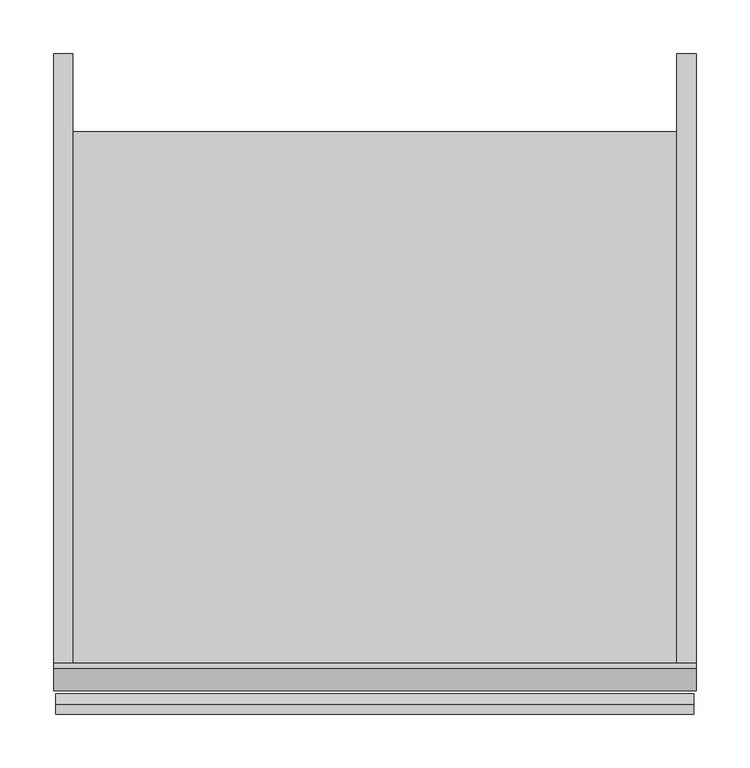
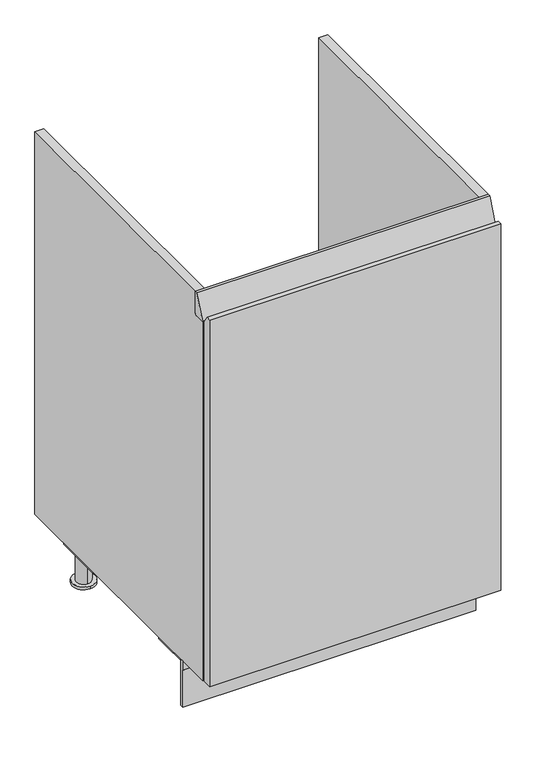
"""IFC4 building model written with IfcOpenShell, lengths in millimetres: furniture geometry, Furniture_Other-Furniture_Molteni&C_Prime_Washdishes-1-leaf : Washdishes 1 leaf - 600 x 828."""

from ifc_helpers import new_model, si_unit, point, frame, frame_2d, origin, place, context, project, spatial, polyline, circle_curve, trimmed, segment, composite_curve, outline, extrude, source, transform, mapped, element, save
from ifc_brep_helpers import plane_surface, cylinder_surface, revolved_surface, advanced_brep


def furniture_563479a7(model_context):
    return source(origin(), model_context, "Body", "SolidModel", [
        extrude(outline(composite_curve([segment(polyline([(-297.5, 878.8414028), (-276.6334135, 928.0), (-271.6986287, 928.0), (-271.6986287, 881.7508798)]), True, "CONTINUOUS"), segment(trimmed(circle_curve(frame_2d((-276.1081057, 881.7508798)), 4.409477), [point((-271.6986287, 881.7508798))], [point((-276.1081057, 877.3414028))], False, "CARTESIAN"), True, "CONTINUOUS"), segment(polyline([(-276.1081057, 877.3414028), (-297.5, 877.3414028), (-297.5, 878.8414028)]), True, "CONTINUOUS")], self_intersect=False)), frame((-300.0, 0.0, 0.0), z_axis=(1.0, 0.0, 0.0), x_axis=(0.0, 1.0, 0.0)), (0.0, 0.0, 1.0), 600.0),
        extrude(outline(polyline([(-300.5, 878.5), (-300.5, 100.0), (-319.5, 100.0), (-319.5, 894.0), (-310.3877276, 894.0), (-300.5, 878.5)])), frame((-298.0, 0.0, 0.0), z_axis=(1.0, 0.0, 0.0), x_axis=(0.0, 1.0, 0.0)), (0.0, 0.0, 1.0), 596.0),
        extrude(outline(polyline([(-227.5, 80.0), (-226.5, 80.0), (-226.5, 100.0), (-220.5, 100.0), (-220.5, 80.0), (-219.5, 80.0), (-219.5, 0.0), (-227.5, 0.0), (-227.5, 80.0)])), frame((-300.0, 0.0, 0.0), z_axis=(1.0, 0.0, 0.0), x_axis=(0.0, 1.0, 0.0)), (0.0, 0.0, 1.0), 600.0),
        advanced_brep(
        [(282.0, 224.4195947, 122.0), (-282.0, 224.4195947, 122.0), (-282.0, -297.5, 122.0), (282.0, -297.5, 122.0), (-282.0, -297.5, 507.7867009), (-300.0, -297.5, 507.7867009), (-300.0, -297.5, 100.0), (300.0, -297.5, 100.0), (300.0, -297.5, 499.6066994), (282.0, -297.5, 499.6066994), (-282.0, 224.4195947, 100.0), (282.0, 224.4195947, 100.0), (282.0, 297.5, 100.0), (300.0, 297.5, 100.0), (-300.0, 297.5, 100.0), (-282.0, 297.5, 100.0), (282.0, -271.6986287, 928.0), (282.0, 297.5, 928.0), (282.0, -297.5, 877.3414028), (282.0, -276.1081057, 877.3414028), (282.0, -271.6986287, 881.7508798), (300.0, -271.6986287, 928.0), (300.0, -271.6986287, 881.7508798), (300.0, -276.1081057, 877.3414028), (300.0, -297.5, 877.3414028), (300.0, 297.5, 928.0), (-282.0, -271.6986287, 928.0), (-282.0, -271.6986287, 881.7508798), (-282.0, -276.1081057, 877.3414028), (-282.0, -297.5, 877.3414028), (-282.0, 297.5, 928.0), (-300.0, -271.6986287, 928.0), (-300.0, 297.5, 928.0), (-300.0, -297.5, 877.3414028), (-300.0, -276.1081057, 877.3414028), (-300.0, -271.6986287, 881.7508798)],
        [
            (0, 1),
            (1, 2),
            (2, 3),
            (3, 0),
            (2, 4),
            (4, 5),
            (5, 6),
            (6, 7),
            (7, 8),
            (8, 9),
            (9, 3),
            (10, 11),
            (11, 12),
            (12, 13),
            (13, 7),
            (6, 14),
            (14, 15),
            (15, 10),
            (0, 11),
            (10, 1),
            (16, 17),
            (17, 12),
            (9, 18),
            (18, 19),
            (19, 20, circle_curve(frame((282.0, -276.1081057, 881.7508798), z_axis=(1.0, 0.0, 0.0), x_axis=(0.0, 1.0, 0.0)), 4.409477)),
            (20, 16),
            (21, 22),
            (22, 23, circle_curve(frame((300.0, -276.1081057, 881.7508798), z_axis=(-1.0, 0.0, 0.0), x_axis=(0.0, 1.0, 0.0)), 4.409477)),
            (23, 24),
            (24, 8),
            (13, 25),
            (25, 21),
            (24, 18),
            (17, 25),
            (16, 21),
            (26, 27),
            (27, 28, circle_curve(frame((-282.0, -276.1081057, 881.7508798), z_axis=(-1.0, 0.0, 0.0), x_axis=(0.0, 1.0, 0.0)), 4.409477)),
            (28, 29),
            (29, 4),
            (15, 30),
            (30, 26),
            (31, 32),
            (32, 14),
            (5, 33),
            (33, 34),
            (34, 35, circle_curve(frame((-300.0, -276.1081057, 881.7508798), z_axis=(1.0, 0.0, 0.0), x_axis=(0.0, 1.0, 0.0)), 4.409477)),
            (35, 31),
            (28, 34),
            (33, 29),
            (32, 30),
            (31, 26),
            (35, 27),
            (23, 19),
            (22, 20),
        ],
        [
            plane_surface(frame((282.0, 224.4195947, 122.0), z_axis=(0.0, 0.0, 1.0), x_axis=(-1.0, 0.0, 0.0))),
            plane_surface(frame((282.0, -297.5, 122.0), z_axis=(0.0, -1.0, 0.0), x_axis=(-1.0, 0.0, 0.0))),
            plane_surface(frame((282.0, -297.5, 100.0), z_axis=(0.0, 0.0, -1.0), x_axis=(-1.0, 0.0, 0.0))),
            plane_surface(frame((282.0, 224.4195947, 100.0), z_axis=(0.0, 1.0, 0.0), x_axis=(-1.0, 0.0, 0.0))),
            plane_surface(frame((282.0, 297.5, 928.0), z_axis=(-1.0, 0.0, 0.0), x_axis=(0.0, 1.0, 0.0))),
            plane_surface(frame((300.0, 297.5, 928.0), z_axis=(1.0, 0.0, 0.0), x_axis=(0.0, -1.0, 0.0))),
            plane_surface(frame((282.0, -297.5, 499.6066994), z_axis=(0.0, -1.0, 0.0), x_axis=(1.0, 0.0, 0.0))),
            plane_surface(frame((282.0, 297.5, 928.0), z_axis=(0.0, 1.0, 0.0), x_axis=(1.0, 0.0, 0.0))),
            plane_surface(frame((282.0, -271.6986287, 928.0), z_axis=(0.0, 0.0, 1.0), x_axis=(1.0, 0.0, 0.0))),
            plane_surface(frame((-282.0, -271.6986287, 928.0), z_axis=(1.0, 0.0, 0.0), x_axis=(0.0, 0.0, -1.0))),
            plane_surface(frame((-300.0, -271.6986287, 928.0), z_axis=(-1.0, 0.0, 0.0), x_axis=(0.0, 0.0, 1.0))),
            plane_surface(frame((-282.0, -276.1081057, 877.3414028), z_axis=(0.0, 0.0, 1.0), x_axis=(-1.0, 0.0, 0.0))),
            plane_surface(frame((-282.0, -297.5, 877.3414028), z_axis=(0.0, -1.0, 0.0), x_axis=(-1.0, 0.0, 0.0))),
            plane_surface(frame((-282.0, 297.5, 100.0), z_axis=(0.0, 1.0, 0.0), x_axis=(-1.0, 0.0, 0.0))),
            plane_surface(frame((-282.0, 297.5, 928.0), z_axis=(0.0, 0.0, 1.0), x_axis=(-1.0, 0.0, 0.0))),
            plane_surface(frame((-282.0, -271.6986287, 928.0), z_axis=(0.0, -1.0, 0.0), x_axis=(-1.0, 0.0, 0.0))),
            revolved_surface(polyline([(-300.0, -271.69862870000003, 881.7508798), (-282.0, -271.69862870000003, 881.7508798)]), (-300.0, -276.1081057, 881.7508798), (-1.0, 0.0, 0.0)),
            plane_surface(frame((282.0, -297.5, 877.3414028), z_axis=(0.0, 0.0, 1.0), x_axis=(1.0, 0.0, 0.0))),
            revolved_surface(polyline([(300.0, -271.69862870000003, 881.7508798), (282.0, -271.69862870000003, 881.7508798)]), (300.0, -276.1081057, 881.7508798), (1.0, 0.0, 0.0)),
            plane_surface(frame((282.0, -271.6986287, 881.7508798), z_axis=(0.0, -1.0, 0.0), x_axis=(1.0, 0.0, 0.0))),
        ],
        [
            (0, [[1, 2, 3, 4]]),
            (1, [[-3, 5, 6, 7, 8, 9, 10, 11]]),
            (2, [[12, 13, 14, 15, -8, 16, 17, 18]]),
            (3, [[-1, 19, -12, 20]]),
            (4, [[21, 22, -13, -19, -4, -11, 23, 24, 25, 26]]),
            (5, [[27, 28, 29, 30, -9, -15, 31, 32]]),
            (6, [[-23, -10, -30, 33]]),
            (7, [[-22, 34, -31, -14]]),
            (8, [[-21, 35, -32, -34]]),
            (9, [[36, 37, 38, 39, -5, -2, -20, -18, 40, 41]]),
            (10, [[42, 43, -16, -7, 44, 45, 46, 47]]),
            (11, [[-38, 48, -45, 49]]),
            (12, [[-39, -49, -44, -6]]),
            (13, [[-40, -17, -43, 50]]),
            (14, [[-41, -50, -42, 51]]),
            (15, [[-36, -51, -47, 52]]),
            (16, [[-37, -52, -46, -48]]),
            (17, [[-24, -33, -29, 53]]),
            (18, [[-25, -53, -28, 54]]),
            (19, [[-26, -54, -27, -35]]),
        ],
    ),
        advanced_brep(
        [(259.0, -172.0406948, 6.1757403), (259.0, -219.0487988, 6.1757403), (259.0, -180.450213, 6.1757403), (259.0, -210.450213, 6.1757403), (259.0, -172.0406948, 0.0), (259.0, -219.0487988, 0.0), (259.0, -210.450213, 76.0), (259.0, -180.450213, 76.0), (285.0, -220.2543184, 100.0), (285.0, -116.0117937, 100.0), (255.0, -116.0117937, 100.0), (180.4, -190.6117937, 100.0), (180.4, -220.2543184, 100.0), (285.0, -220.2543184, 76.0), (180.4, -220.2543184, 76.0), (180.4, -190.6117937, 76.0), (255.0, -116.0117937, 76.0), (285.0, -116.0117937, 76.0)],
        [
            (0, 1, circle_curve(frame((259.0, -195.5447468, 6.1757403), z_axis=(0.0, 0.0, 1.0), x_axis=(1.0, 0.0, 0.0)), 23.504052)),
            (1, 0, circle_curve(frame((259.0, -195.5447468, 6.1757403), z_axis=(0.0, 0.0, 1.0), x_axis=(1.0, 0.0, 0.0)), 23.504052)),
            (2, 3, circle_curve(frame((259.0, -195.450213, 6.1757403), z_axis=(0.0, 0.0, -1.0), x_axis=(1.0, 0.0, 0.0)), 15.0)),
            (3, 2, circle_curve(frame((259.0, -195.450213, 6.1757403), z_axis=(0.0, 0.0, -1.0), x_axis=(1.0, 0.0, 0.0)), 15.0)),
            (4, 5, circle_curve(frame((259.0, -195.5447468, 0.0), z_axis=(0.0, 0.0, -1.0), x_axis=(1.0, 0.0, 0.0)), 23.504052)),
            (5, 4, circle_curve(frame((259.0, -195.5447468, 0.0), z_axis=(0.0, 0.0, -1.0), x_axis=(1.0, 0.0, 0.0)), 23.504052)),
            (0, 4),
            (5, 1),
            (6, 3),
            (2, 7),
            (7, 6, circle_curve(frame((259.0, -195.450213, 76.0), z_axis=(0.0, 0.0, -1.0), x_axis=(1.0, 0.0, 0.0)), 15.0)),
            (6, 7, circle_curve(frame((259.0, -195.450213, 76.0), z_axis=(0.0, 0.0, -1.0), x_axis=(1.0, 0.0, 0.0)), 15.0)),
            (8, 9),
            (9, 10),
            (10, 11),
            (11, 12),
            (12, 8),
            (13, 14),
            (14, 15),
            (15, 16),
            (16, 17),
            (17, 13),
            (8, 13),
            (17, 9),
            (16, 10),
            (15, 11),
            (14, 12),
        ],
        [
            plane_surface(frame((282.504052, -195.5447468, 6.1757403), z_axis=(0.0, 0.0, 1.0), x_axis=(0.0, 1.0, 0.0))),
            plane_surface(frame((282.504052, -195.5447468, 0.0), z_axis=(0.0, 0.0, -1.0), x_axis=(0.0, -1.0, 0.0))),
            cylinder_surface(frame((259.0, -195.5447468, 0.0), z_axis=(0.0, 0.0, 1.0), x_axis=(1.0, 0.0, 0.0)), 23.504052),
            cylinder_surface(frame((259.0, -195.450213, 0.0), z_axis=(0.0, 0.0, 1.0), x_axis=(1.0, 0.0, 0.0)), 15.0),
            plane_surface(frame((-285.0, 116.2642334, 100.0), z_axis=(0.0, 0.0, 1.0), x_axis=(1.0, 0.0, 0.0))),
            plane_surface(frame((-285.0, 116.2642334, 76.0), z_axis=(0.0, 0.0, -1.0), x_axis=(-1.0, 0.0, 0.0))),
            plane_surface(frame((285.0, -220.2543184, 100.0), z_axis=(1.0, 0.0, 0.0), x_axis=(0.0, 0.0, -1.0))),
            plane_surface(frame((285.0, -116.0117937, 100.0), z_axis=(0.0, 1.0, 0.0), x_axis=(0.0, 0.0, -1.0))),
            plane_surface(frame((255.0, -116.0117937, 100.0), z_axis=(-0.7071067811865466, 0.7071067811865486, 0.0), x_axis=(0.0, 0.0, -1.0))),
            plane_surface(frame((180.4, -190.6117937, 100.0), z_axis=(-1.0, 0.0, 0.0), x_axis=(0.0, 0.0, -1.0))),
            plane_surface(frame((180.4, -220.2543184, 100.0), z_axis=(0.0, -1.0, 0.0), x_axis=(0.0, 0.0, -1.0))),
        ],
        [
            (0, [[1, 2], [3, 4]]),
            (1, [[5, 6]]),
            (2, [[-1, 7, -6, 8]]),
            (2, [[-2, -8, -5, -7]]),
            (3, [[9, -3, 10, 11]]),
            (3, [[-9, 12, -10, -4]]),
            (4, [[13, 14, 15, 16, 17]]),
            (5, [[18, 19, 20, 21, 22], [-11, -12]]),
            (6, [[-13, 23, -22, 24]]),
            (7, [[-14, -24, -21, 25]]),
            (8, [[-15, -25, -20, 26]]),
            (9, [[-16, -26, -19, 27]]),
            (10, [[-17, -27, -18, -23]]),
        ],
    ),
        advanced_brep(
        [(259.0, 219.004052, 6.1757403), (259.0, 171.995948, 6.1757403), (259.0, 210.450213, 6.1757403), (259.0, 180.450213, 6.1757403), (259.0, 219.004052, 0.0), (259.0, 171.995948, 0.0), (259.0, 180.450213, 76.0), (259.0, 210.450213, 76.0), (285.0, 116.2642334, 100.0), (285.0, 220.9077377, 100.0), (180.4, 220.9077377, 100.0), (180.4, 190.8642334, 100.0), (255.0, 116.2642334, 100.0), (285.0, 116.2642334, 76.0), (255.0, 116.2642334, 76.0), (180.4, 190.8642334, 76.0), (180.4, 220.9077377, 76.0), (285.0, 220.9077377, 76.0)],
        [
            (0, 1, circle_curve(frame((259.0, 195.5, 6.1757403), z_axis=(0.0, 0.0, 1.0), x_axis=(1.0, 0.0, 0.0)), 23.504052)),
            (1, 0, circle_curve(frame((259.0, 195.5, 6.1757403), z_axis=(0.0, 0.0, 1.0), x_axis=(1.0, 0.0, 0.0)), 23.504052)),
            (2, 3, circle_curve(frame((259.0, 195.450213, 6.1757403), z_axis=(0.0, 0.0, -1.0), x_axis=(1.0, 0.0, 0.0)), 15.0)),
            (3, 2, circle_curve(frame((259.0, 195.450213, 6.1757403), z_axis=(0.0, 0.0, -1.0), x_axis=(1.0, 0.0, 0.0)), 15.0)),
            (4, 5, circle_curve(frame((259.0, 195.5, 0.0), z_axis=(0.0, 0.0, -1.0), x_axis=(1.0, 0.0, 0.0)), 23.504052)),
            (5, 4, circle_curve(frame((259.0, 195.5, 0.0), z_axis=(0.0, 0.0, -1.0), x_axis=(1.0, 0.0, 0.0)), 23.504052)),
            (0, 4),
            (5, 1),
            (6, 3),
            (2, 7),
            (7, 6, circle_curve(frame((259.0, 195.450213, 76.0), z_axis=(0.0, 0.0, -1.0), x_axis=(1.0, 0.0, 0.0)), 15.0)),
            (6, 7, circle_curve(frame((259.0, 195.450213, 76.0), z_axis=(0.0, 0.0, -1.0), x_axis=(1.0, 0.0, 0.0)), 15.0)),
            (8, 9),
            (9, 10),
            (10, 11),
            (11, 12),
            (12, 8),
            (13, 14),
            (14, 15),
            (15, 16),
            (16, 17),
            (17, 13),
            (8, 13),
            (17, 9),
            (16, 10),
            (15, 11),
            (14, 12),
        ],
        [
            plane_surface(frame((282.504052, -195.5447468, 6.1757403), z_axis=(0.0, 0.0, 1.0), x_axis=(0.0, 1.0, 0.0))),
            plane_surface(frame((282.504052, -195.5447468, 0.0), z_axis=(0.0, 0.0, -1.0), x_axis=(0.0, -1.0, 0.0))),
            cylinder_surface(frame((259.0, 195.5, 0.0), z_axis=(0.0, 0.0, 1.0), x_axis=(1.0, 0.0, 0.0)), 23.504052),
            cylinder_surface(frame((259.0, 195.450213, 0.0), z_axis=(0.0, 0.0, 1.0), x_axis=(1.0, 0.0, 0.0)), 15.0),
            plane_surface(frame((-285.0, 116.2642334, 100.0), z_axis=(0.0, 0.0, 1.0), x_axis=(1.0, 0.0, 0.0))),
            plane_surface(frame((-285.0, 116.2642334, 76.0), z_axis=(0.0, 0.0, -1.0), x_axis=(-1.0, 0.0, 0.0))),
            plane_surface(frame((285.0, 116.2642334, 100.0), z_axis=(1.0, 0.0, 0.0), x_axis=(0.0, 0.0, -1.0))),
            plane_surface(frame((285.0, 220.9077377, 100.0), z_axis=(0.0, 1.0, 0.0), x_axis=(0.0, 0.0, -1.0))),
            plane_surface(frame((180.4, 220.9077377, 100.0), z_axis=(-1.0, 0.0, 0.0), x_axis=(0.0, 0.0, -1.0))),
            plane_surface(frame((180.4, 190.8642334, 100.0), z_axis=(-0.7071067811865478, -0.7071067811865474, 0.0), x_axis=(0.0, 0.0, -1.0))),
            plane_surface(frame((255.0, 116.2642334, 100.0), z_axis=(0.0, -1.0, 0.0), x_axis=(0.0, 0.0, -1.0))),
        ],
        [
            (0, [[1, 2], [3, 4]]),
            (1, [[5, 6]]),
            (2, [[-1, 7, -6, 8]]),
            (2, [[-2, -8, -5, -7]]),
            (3, [[9, -3, 10, 11]]),
            (3, [[-9, 12, -10, -4]]),
            (4, [[13, 14, 15, 16, 17]]),
            (5, [[18, 19, 20, 21, 22], [-11, -12]]),
            (6, [[-13, 23, -22, 24]]),
            (7, [[-14, -24, -21, 25]]),
            (8, [[-15, -25, -20, 26]]),
            (9, [[-16, -26, -19, 27]]),
            (10, [[-17, -27, -18, -23]]),
        ],
    ),
        advanced_brep(
        [(-259.0, 219.004052, 6.1757403), (-259.0, 171.995948, 6.1757403), (-259.0, 210.450213, 6.1757403), (-259.0, 180.450213, 6.1757403), (-259.0, 219.004052, 0.0), (-259.0, 171.995948, 0.0), (-259.0, 180.450213, 76.0), (-259.0, 210.450213, 76.0), (-285.0, 116.2642334, 100.0), (-255.0, 116.2642334, 100.0), (-180.4, 190.8642334, 100.0), (-180.4, 220.9077377, 100.0), (-285.0, 220.9077377, 100.0), (-285.0, 116.2642334, 76.0), (-285.0, 220.9077377, 76.0), (-180.4, 220.9077377, 76.0), (-180.4, 190.8642334, 76.0), (-255.0, 116.2642334, 76.0)],
        [
            (0, 1, circle_curve(frame((-259.0, 195.5, 6.1757403), z_axis=(0.0, 0.0, 1.0), x_axis=(1.0, 0.0, 0.0)), 23.504052)),
            (1, 0, circle_curve(frame((-259.0, 195.5, 6.1757403), z_axis=(0.0, 0.0, 1.0), x_axis=(1.0, 0.0, 0.0)), 23.504052)),
            (2, 3, circle_curve(frame((-259.0, 195.450213, 6.1757403), z_axis=(0.0, 0.0, -1.0), x_axis=(1.0, 0.0, 0.0)), 15.0)),
            (3, 2, circle_curve(frame((-259.0, 195.450213, 6.1757403), z_axis=(0.0, 0.0, -1.0), x_axis=(1.0, 0.0, 0.0)), 15.0)),
            (4, 5, circle_curve(frame((-259.0, 195.5, 0.0), z_axis=(0.0, 0.0, -1.0), x_axis=(1.0, 0.0, 0.0)), 23.504052)),
            (5, 4, circle_curve(frame((-259.0, 195.5, 0.0), z_axis=(0.0, 0.0, -1.0), x_axis=(1.0, 0.0, 0.0)), 23.504052)),
            (0, 4),
            (5, 1),
            (6, 3),
            (2, 7),
            (7, 6, circle_curve(frame((-259.0, 195.450213, 76.0), z_axis=(0.0, 0.0, -1.0), x_axis=(1.0, 0.0, 0.0)), 15.0)),
            (6, 7, circle_curve(frame((-259.0, 195.450213, 76.0), z_axis=(0.0, 0.0, -1.0), x_axis=(1.0, 0.0, 0.0)), 15.0)),
            (8, 9),
            (9, 10),
            (10, 11),
            (11, 12),
            (12, 8),
            (13, 14),
            (14, 15),
            (15, 16),
            (16, 17),
            (17, 13),
            (8, 13),
            (17, 9),
            (16, 10),
            (15, 11),
            (14, 12),
        ],
        [
            plane_surface(frame((282.504052, -195.5447468, 6.1757403), z_axis=(0.0, 0.0, 1.0), x_axis=(0.0, 1.0, 0.0))),
            plane_surface(frame((282.504052, -195.5447468, 0.0), z_axis=(0.0, 0.0, -1.0), x_axis=(0.0, -1.0, 0.0))),
            cylinder_surface(frame((-259.0, 195.5, 0.0), z_axis=(0.0, 0.0, 1.0), x_axis=(1.0, 0.0, 0.0)), 23.504052),
            cylinder_surface(frame((-259.0, 195.450213, 0.0), z_axis=(0.0, 0.0, 1.0), x_axis=(1.0, 0.0, 0.0)), 15.0),
            plane_surface(frame((-285.0, 116.2642334, 100.0), z_axis=(0.0, 0.0, 1.0), x_axis=(1.0, 0.0, 0.0))),
            plane_surface(frame((-285.0, 116.2642334, 76.0), z_axis=(0.0, 0.0, -1.0), x_axis=(-1.0, 0.0, 0.0))),
            plane_surface(frame((-285.0, 116.2642334, 100.0), z_axis=(0.0, -1.0, 0.0), x_axis=(0.0, 0.0, -1.0))),
            plane_surface(frame((-255.0, 116.2642334, 100.0), z_axis=(0.7071067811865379, -0.7071067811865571, 0.0), x_axis=(0.0, 0.0, -1.0))),
            plane_surface(frame((-180.4, 190.8642334, 100.0), z_axis=(1.0, 0.0, 0.0), x_axis=(0.0, 0.0, -1.0))),
            plane_surface(frame((-180.4, 220.9077377, 100.0), z_axis=(0.0, 1.0, 0.0), x_axis=(0.0, 0.0, -1.0))),
            plane_surface(frame((-285.0, 220.9077377, 100.0), z_axis=(-1.0, 0.0, 0.0), x_axis=(0.0, 0.0, -1.0))),
        ],
        [
            (0, [[1, 2], [3, 4]]),
            (1, [[5, 6]]),
            (2, [[-1, 7, -6, 8]]),
            (2, [[-2, -8, -5, -7]]),
            (3, [[9, -3, 10, 11]]),
            (3, [[-9, 12, -10, -4]]),
            (4, [[13, 14, 15, 16, 17]]),
            (5, [[18, 19, 20, 21, 22], [-11, -12]]),
            (6, [[-13, 23, -22, 24]]),
            (7, [[-14, -24, -21, 25]]),
            (8, [[-15, -25, -20, 26]]),
            (9, [[-16, -26, -19, 27]]),
            (10, [[-17, -27, -18, -23]]),
        ],
    ),
        advanced_brep(
        [(-259.0, -219.04912, 6.1757403), (-259.0, -172.041016, 6.1757403), (-259.0, -180.450213, 6.1757403), (-259.0, -210.450213, 6.1757403), (-259.0, -219.04912, 0.0), (-259.0, -172.041016, 0.0), (-259.0, -210.450213, 76.0), (-259.0, -180.450213, 76.0), (-285.0, -220.2543184, 100.0), (-180.4, -220.2543184, 100.0), (-180.4, -190.6117937, 100.0), (-255.0, -116.0117937, 100.0), (-285.0, -116.0117937, 100.0), (-285.0, -220.2543184, 76.0), (-285.0, -116.0117937, 76.0), (-255.0, -116.0117937, 76.0), (-180.4, -190.6117937, 76.0), (-180.4, -220.2543184, 76.0)],
        [
            (0, 1, circle_curve(frame((-259.0, -195.545068, 6.1757403), z_axis=(0.0, 0.0, 1.0), x_axis=(1.0, 0.0, 0.0)), 23.504052)),
            (1, 0, circle_curve(frame((-259.0, -195.545068, 6.1757403), z_axis=(0.0, 0.0, 1.0), x_axis=(1.0, 0.0, 0.0)), 23.504052)),
            (2, 3, circle_curve(frame((-259.0, -195.450213, 6.1757403), z_axis=(0.0, 0.0, -1.0), x_axis=(1.0, 0.0, 0.0)), 15.0)),
            (3, 2, circle_curve(frame((-259.0, -195.450213, 6.1757403), z_axis=(0.0, 0.0, -1.0), x_axis=(1.0, 0.0, 0.0)), 15.0)),
            (4, 5, circle_curve(frame((-259.0, -195.545068, 0.0), z_axis=(0.0, 0.0, -1.0), x_axis=(1.0, 0.0, 0.0)), 23.504052)),
            (5, 4, circle_curve(frame((-259.0, -195.545068, 0.0), z_axis=(0.0, 0.0, -1.0), x_axis=(1.0, 0.0, 0.0)), 23.504052)),
            (0, 4),
            (5, 1),
            (6, 3),
            (2, 7),
            (7, 6, circle_curve(frame((-259.0, -195.450213, 76.0), z_axis=(0.0, 0.0, -1.0), x_axis=(1.0, 0.0, 0.0)), 15.0)),
            (6, 7, circle_curve(frame((-259.0, -195.450213, 76.0), z_axis=(0.0, 0.0, -1.0), x_axis=(1.0, 0.0, 0.0)), 15.0)),
            (8, 9),
            (9, 10),
            (10, 11),
            (11, 12),
            (12, 8),
            (13, 14),
            (14, 15),
            (15, 16),
            (16, 17),
            (17, 13),
            (8, 13),
            (17, 9),
            (16, 10),
            (15, 11),
            (14, 12),
        ],
        [
            plane_surface(frame((282.504052, -195.5447468, 6.1757403), z_axis=(0.0, 0.0, 1.0), x_axis=(0.0, 1.0, 0.0))),
            plane_surface(frame((282.504052, -195.5447468, 0.0), z_axis=(0.0, 0.0, -1.0), x_axis=(0.0, -1.0, 0.0))),
            cylinder_surface(frame((-259.0, -195.545068, 0.0), z_axis=(0.0, 0.0, 1.0), x_axis=(1.0, 0.0, 0.0)), 23.504052),
            cylinder_surface(frame((-259.0, -195.450213, 0.0), z_axis=(0.0, 0.0, 1.0), x_axis=(1.0, 0.0, 0.0)), 15.0),
            plane_surface(frame((-285.0, 116.2642334, 100.0), z_axis=(0.0, 0.0, 1.0), x_axis=(1.0, 0.0, 0.0))),
            plane_surface(frame((-285.0, 116.2642334, 76.0), z_axis=(0.0, 0.0, -1.0), x_axis=(-1.0, 0.0, 0.0))),
            plane_surface(frame((-285.0, -220.2543184, 100.0), z_axis=(0.0, -1.0, 0.0), x_axis=(0.0, 0.0, -1.0))),
            plane_surface(frame((-180.4, -220.2543184, 100.0), z_axis=(1.0, 0.0, 0.0), x_axis=(0.0, 0.0, -1.0))),
            plane_surface(frame((-180.4, -190.6117937, 100.0), z_axis=(0.7071067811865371, 0.707106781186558, 0.0), x_axis=(0.0, 0.0, -1.0))),
            plane_surface(frame((-255.0, -116.0117937, 100.0), z_axis=(0.0, 1.0, 0.0), x_axis=(0.0, 0.0, -1.0))),
            plane_surface(frame((-285.0, -116.0117937, 100.0), z_axis=(-1.0, 0.0, 0.0), x_axis=(0.0, 0.0, -1.0))),
        ],
        [
            (0, [[1, 2], [3, 4]]),
            (1, [[5, 6]]),
            (2, [[-1, 7, -6, 8]]),
            (2, [[-2, -8, -5, -7]]),
            (3, [[9, -3, 10, 11]]),
            (3, [[-9, 12, -10, -4]]),
            (4, [[13, 14, 15, 16, 17]]),
            (5, [[18, 19, 20, 21, 22], [-11, -12]]),
            (6, [[-13, 23, -22, 24]]),
            (7, [[-14, -24, -21, 25]]),
            (8, [[-15, -25, -20, 26]]),
            (9, [[-16, -26, -19, 27]]),
            (10, [[-17, -27, -18, -23]]),
        ],
    ),
    ])


if __name__ == "__main__":
    model = new_model("IFC4")
    model_context = context("Model", 3, world=origin())
    ifc_project = project(units=[si_unit("LENGTHUNIT", "METRE", prefix="MILLI")], contexts=[model_context])
    site = spatial("IfcSite", under=ifc_project)
    building = spatial("IfcBuilding", under=site)
    placement = place(None, origin())
    furniture_shape = furniture_563479a7(model_context)
    element("IfcFurniture", 1, ObjectType="Furniture_Other-Furniture_Molteni&C_Prime_Washdishes-1-leaf : Washdishes 1 leaf - 600 x 828", at=placement, inside=building, context=model_context, shape_type="MappedRepresentation", body=[
        mapped(furniture_shape, transform((0.0, 0.0, 0.0), x_axis=(1.0, 0.0, 0.0), y_axis=(0.0, 1.0, 0.0), z_axis=(0.0, 0.0, 1.0))),
    ])
    save(model, "model.ifc")
